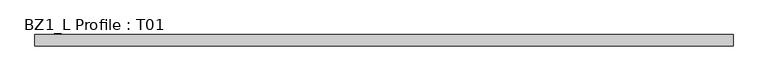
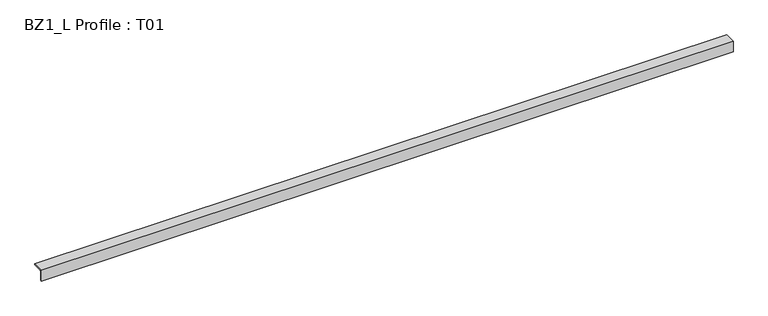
"""IFC4 building model written with IfcOpenShell, lengths in millimetres: beam geometry, BZ1_L Profile : T01."""

from ifc_helpers import new_model, si_unit, point, frame, frame_2d, origin, place, context, project, spatial, polyline, circle_curve, trimmed, segment, composite_curve, outline, extrude, source, transform, mapped, element, save


def bz1_l_profile_t01_17f12a1d(model_context):
    return source(origin(), model_context, "Body", "SweptSolid", [
        extrude(outline(composite_curve([segment(polyline([(41.5, 0.0), (7.0, 0.0)]), True, "CONTINUOUS"), segment(trimmed(circle_curve(frame_2d((7.0, -7.0)), 7.0), [point((7.0, 0.0))], [point((0.0, -7.0))], True, "CARTESIAN"), True, "CONTINUOUS"), segment(polyline([(0.0, -7.0), (0.0, -41.5)]), True, "CONTINUOUS"), segment(trimmed(circle_curve(frame_2d((-3.5, -41.5)), 3.5), [point((0.0, -41.5))], [point((-3.5, -45.0))], False, "CARTESIAN"), True, "CONTINUOUS"), segment(polyline([(-3.5, -45.0), (-5.0, -45.0), (-5.0, 5.0), (45.0, 5.0), (45.0, 3.5)]), True, "CONTINUOUS"), segment(trimmed(circle_curve(frame_2d((41.5, 3.5)), 3.5), [point((45.0, 3.5))], [point((41.5, 0.0))], False, "CARTESIAN"), True, "CONTINUOUS")], self_intersect=False)), frame((0.0, 0.0, 0.0), z_axis=(1.0, 0.0, 0.0), x_axis=(0.0, 1.0, 0.0)), (0.0, 0.0, 1.0), 3080.0),
    ])


if __name__ == "__main__":
    model = new_model("IFC4")
    model_context = context("Model", 3, world=origin())
    ifc_project = project(units=[si_unit("LENGTHUNIT", "METRE", prefix="MILLI")], contexts=[model_context])
    site = spatial("IfcSite", under=ifc_project)
    building = spatial("IfcBuilding", under=site)
    placement = place(None, origin())
    bz1_l_profile_t01_shape = bz1_l_profile_t01_17f12a1d(model_context)
    element("IfcBeam", 1, ObjectType="BZ1_L Profile : T01", at=placement, inside=building, context=model_context, shape_type="MappedRepresentation", body=[
        mapped(bz1_l_profile_t01_shape, transform((0.0, 0.0, 0.0), x_axis=(1.0, 0.0, 0.0), y_axis=(0.0, 1.0, 0.0), z_axis=(0.0, 0.0, 1.0))),
    ])
    save(model, "model.ifc")
